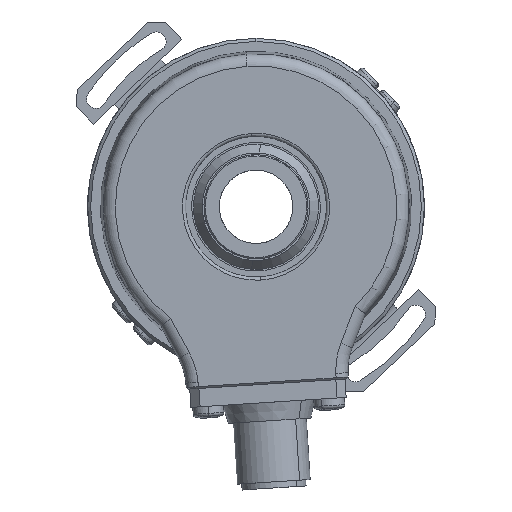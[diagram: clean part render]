
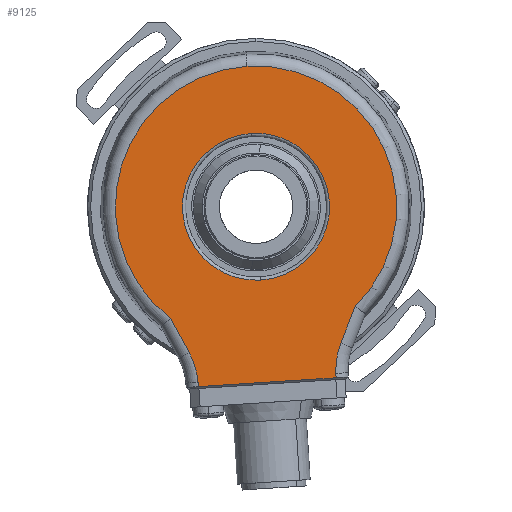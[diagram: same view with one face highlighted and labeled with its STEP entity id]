
A CAD part, left-side view. The second image highlights one B-rep face of the part: STEP entity #9125.
In plain terms, the highlighted planar face has unit normal (-1, 0, 0).
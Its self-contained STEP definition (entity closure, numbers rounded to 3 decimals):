
#5713 = DIRECTION ( 'NONE',  ( 0., 0.064, 0.998 ) ) ;
#5714 = DIRECTION ( 'NONE',  ( 1., 0., 0. ) ) ;
#5715 = CARTESIAN_POINT ( 'NONE',  ( -21., -25.023, -26.635 ) ) ;
#5716 = AXIS2_PLACEMENT_3D ( 'NONE', #5715, #5714, #5713 ) ;
#5717 = CIRCLE ( 'NONE', #5716, 12. ) ;
#5719 = CARTESIAN_POINT ( 'NONE',  ( -21., -13.845, -22.27 ) ) ;
#5813 = DIRECTION ( 'NONE',  ( 0., -0.364, 0.932 ) ) ;
#5814 = VECTOR ( 'NONE', #5813, 1000. ) ;
#5815 = CARTESIAN_POINT ( 'NONE',  ( -21., -16.051, -16.621 ) ) ;
#5817 = CARTESIAN_POINT ( 'NONE',  ( -21., -16.169, -16.318 ) ) ;
#5818 = LINE ( 'NONE', #5815, #5814 ) ;
#5913 = DIRECTION ( 'NONE',  ( 0., 0.064, 0.998 ) ) ;
#5914 = DIRECTION ( 'NONE',  ( 1., 0., 0. ) ) ;
#5915 = CARTESIAN_POINT ( 'NONE',  ( -21., 0., 0. ) ) ;
#5916 = AXIS2_PLACEMENT_3D ( 'NONE', #5915, #5914, #5913 ) ;
#5917 = CIRCLE ( 'NONE', #5916, 12. ) ;
#5918 = CARTESIAN_POINT ( 'NONE',  ( -21., -0.769, -11.975 ) ) ;
#6019 = CARTESIAN_POINT ( 'NONE',  ( -21., 0.769, 11.975 ) ) ;
#6043 = CARTESIAN_POINT ( 'NONE',  ( -21., 13.95, -18.251 ) ) ;
#6044 = CARTESIAN_POINT ( 'NONE',  ( -21., 1.472, 22.925 ) ) ;
#6045 = DIRECTION ( 'NONE',  ( 0., 0.064, 0.998 ) ) ;
#6046 = DIRECTION ( 'NONE',  ( -1., 0., 0. ) ) ;
#6047 = CARTESIAN_POINT ( 'NONE',  ( -21., 0., 0. ) ) ;
#6048 = AXIS2_PLACEMENT_3D ( 'NONE', #6047, #6046, #6045 ) ;
#6049 = CIRCLE ( 'NONE', #6048, 22.972 ) ;
#6112 = CARTESIAN_POINT ( 'NONE',  ( -21., 9.452, -28.638 ) ) ;
#6463 = DIRECTION ( 'NONE',  ( 0., 0.064, 0.998 ) ) ;
#6464 = DIRECTION ( 'NONE',  ( 1., 0., 0. ) ) ;
#6465 = CARTESIAN_POINT ( 'NONE',  ( -21., 21.413, -29.616 ) ) ;
#6466 = AXIS2_PLACEMENT_3D ( 'NONE', #6465, #6464, #6463 ) ;
#6467 = CIRCLE ( 'NONE', #6466, 12. ) ;
#6540 = DIRECTION ( 'NONE',  ( 0., 0.064, 0.998 ) ) ;
#6541 = DIRECTION ( 'NONE',  ( -1., 0., 0. ) ) ;
#6542 = CARTESIAN_POINT ( 'NONE',  ( -21., 0., 0. ) ) ;
#6543 = AXIS2_PLACEMENT_3D ( 'NONE', #6542, #6541, #6540 ) ;
#6544 = CIRCLE ( 'NONE', #6543, 22.972 ) ;
#6592 = CARTESIAN_POINT ( 'NONE',  ( -21., -13.07, -27.915 ) ) ;
#6597 = DIRECTION ( 'NONE',  ( 0., -0.48, -0.877 ) ) ;
#6598 = VECTOR ( 'NONE', #6597, 1000. ) ;
#6599 = CARTESIAN_POINT ( 'NONE',  ( -21., 10.884, -23.858 ) ) ;
#6600 = LINE ( 'NONE', #6599, #6598 ) ;
#6601 = CARTESIAN_POINT ( 'NONE',  ( -21., 10.884, -23.858 ) ) ;
#6604 = CARTESIAN_POINT ( 'NONE',  ( -21., -13.037, -27.194 ) ) ;
#6936 = DIRECTION ( 'NONE',  ( 0., -0.081, -0.997 ) ) ;
#6937 = VECTOR ( 'NONE', #6936, 1000. ) ;
#6938 = CARTESIAN_POINT ( 'NONE',  ( -21., 11.715, -0.958 ) ) ;
#6944 = LINE ( 'NONE', #6938, #6937 ) ;
#7209 = CARTESIAN_POINT ( 'NONE',  ( -21., 9.394, -29.357 ) ) ;
#7258 = DIRECTION ( 'NONE',  ( 0., -0.998, 0.064 ) ) ;
#7259 = VECTOR ( 'NONE', #7258, 1000. ) ;
#7260 = CARTESIAN_POINT ( 'NONE',  ( -21., -13.065, -27.915 ) ) ;
#7261 = LINE ( 'NONE', #7260, #7259 ) ;
#7496 = FACE_OUTER_BOUND ( 'NONE', #8942, .T. ) ;
#7497 = FACE_BOUND ( 'NONE', #9126, .T. ) ;
#7498 = DIRECTION ( 'NONE',  ( 0., 0.064, 0.998 ) ) ;
#7499 = DIRECTION ( 'NONE',  ( 1., 0., 0. ) ) ;
#7500 = CARTESIAN_POINT ( 'NONE',  ( -21., 0., 0. ) ) ;
#7501 = AXIS2_PLACEMENT_3D ( 'NONE', #7500, #7499, #7498 ) ;
#7502 = CIRCLE ( 'NONE', #7501, 12. ) ;
#7533 = DIRECTION ( 'NONE',  ( 0., 0.047, 0.999 ) ) ;
#7534 = VECTOR ( 'NONE', #7533, 1000. ) ;
#7535 = CARTESIAN_POINT ( 'NONE',  ( -21., -11.741, 0.548 ) ) ;
#7536 = LINE ( 'NONE', #7535, #7534 ) ;
#7584 = DIRECTION ( 'NONE',  ( 0., 0.064, 0.998 ) ) ;
#7585 = DIRECTION ( 'NONE',  ( 1., 0., 0. ) ) ;
#7586 = CARTESIAN_POINT ( 'NONE',  ( -21., 0., 0. ) ) ;
#7587 = AXIS2_PLACEMENT_3D ( 'NONE', #7586, #7585, #7584 ) ;
#7588 = PLANE ( 'NONE',  #7587 ) ;
#8585 = VERTEX_POINT ( 'NONE', #5719 ) ;
#8587 = EDGE_CURVE ( 'NONE', #8765, #8585, #5717, .T. ) ;
#8602 = VERTEX_POINT ( 'NONE', #5817 ) ;
#8604 = EDGE_CURVE ( 'NONE', #8585, #8602, #5818, .T. ) ;
#8632 = VERTEX_POINT ( 'NONE', #5918 ) ;
#8634 = EDGE_CURVE ( 'NONE', #8683, #8632, #5917, .T. ) ;
#8662 = VERTEX_POINT ( 'NONE', #6112 ) ;
#8676 = EDGE_CURVE ( 'NONE', #8677, #8678, #6049, .T. ) ;
#8677 = VERTEX_POINT ( 'NONE', #6044 ) ;
#8678 = VERTEX_POINT ( 'NONE', #6043 ) ;
#8683 = VERTEX_POINT ( 'NONE', #6019 ) ;
#8765 = VERTEX_POINT ( 'NONE', #6604 ) ;
#8768 = VERTEX_POINT ( 'NONE', #6601 ) ;
#8770 = EDGE_CURVE ( 'NONE', #8678, #8768, #6600, .T. ) ;
#8778 = VERTEX_POINT ( 'NONE', #6592 ) ;
#8796 = EDGE_CURVE ( 'NONE', #8768, #8662, #6467, .T. ) ;
#8814 = EDGE_CURVE ( 'NONE', #8602, #8677, #6544, .T. ) ;
#8940 = ORIENTED_EDGE ( 'NONE', *, *, #8634, .T. ) ;
#8941 = ORIENTED_EDGE ( 'NONE', *, *, #9124, .T. ) ;
#8942 = EDGE_LOOP ( 'NONE', ( #9074, #9075, #9076, #9078, #9079, #9080, #9081, #9082, #9083 ) ) ;
#8948 = EDGE_CURVE ( 'NONE', #8662, #9068, #6944, .T. ) ;
#9053 = EDGE_CURVE ( 'NONE', #9068, #8778, #7261, .T. ) ;
#9068 = VERTEX_POINT ( 'NONE', #7209 ) ;
#9074 = ORIENTED_EDGE ( 'NONE', *, *, #8948, .T. ) ;
#9075 = ORIENTED_EDGE ( 'NONE', *, *, #9053, .T. ) ;
#9076 = ORIENTED_EDGE ( 'NONE', *, *, #9077, .T. ) ;
#9077 = EDGE_CURVE ( 'NONE', #8778, #8765, #7536, .T. ) ;
#9078 = ORIENTED_EDGE ( 'NONE', *, *, #8587, .T. ) ;
#9079 = ORIENTED_EDGE ( 'NONE', *, *, #8604, .T. ) ;
#9080 = ORIENTED_EDGE ( 'NONE', *, *, #8814, .T. ) ;
#9081 = ORIENTED_EDGE ( 'NONE', *, *, #8676, .T. ) ;
#9082 = ORIENTED_EDGE ( 'NONE', *, *, #8770, .T. ) ;
#9083 = ORIENTED_EDGE ( 'NONE', *, *, #8796, .T. ) ;
#9124 = EDGE_CURVE ( 'NONE', #8632, #8683, #7502, .T. ) ;
#9125 = ADVANCED_FACE ( 'NONE', ( #7497, #7496 ), #7588, .F. ) ;
#9126 = EDGE_LOOP ( 'NONE', ( #8940, #8941 ) ) ;
